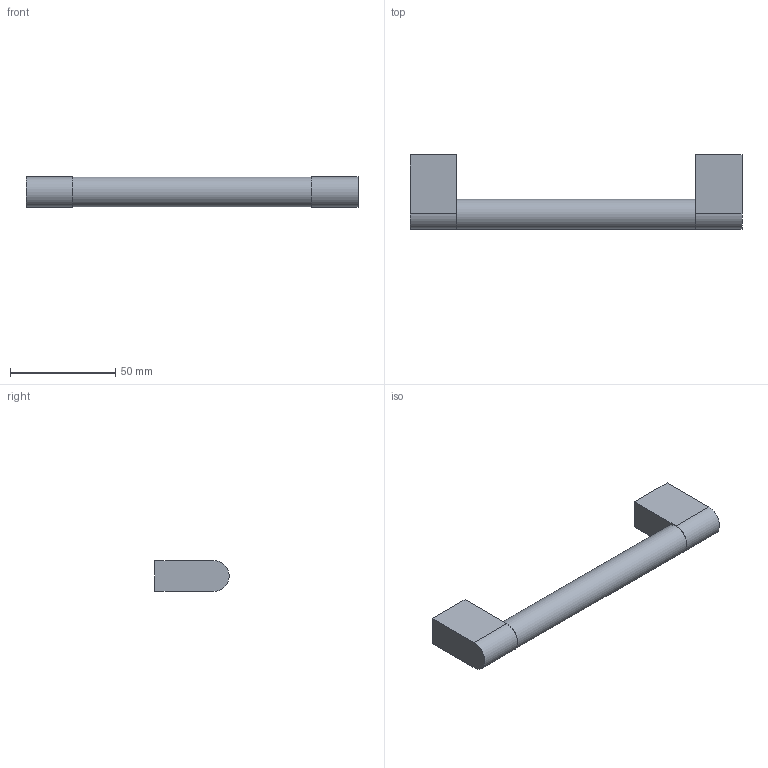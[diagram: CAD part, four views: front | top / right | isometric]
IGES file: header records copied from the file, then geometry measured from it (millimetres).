
Start section: Data from Parasolid IGES Translator 20.0.26, Copyright(c) 2006 Siemens P LM Software. All Rights Reserved.
Global section: file name: 9332317.igs; native system: By Siemens PLM Incorporated; preprocessor: XPlus GENERIC/IGES 20.0.26; author: Noname; organization: Noname; date: 20230829.122455; units: millimetre
Bounding box: 158 x 35.36 x 14.64 mm (x, y, z)
Surface area: 11455.4 mm2 (no closed solid volume)
Topology: 0 solids, 0 shells, 17 faces, 66 edges, 62 vertices
Faces by surface type: extrusion 12, revolution 5
